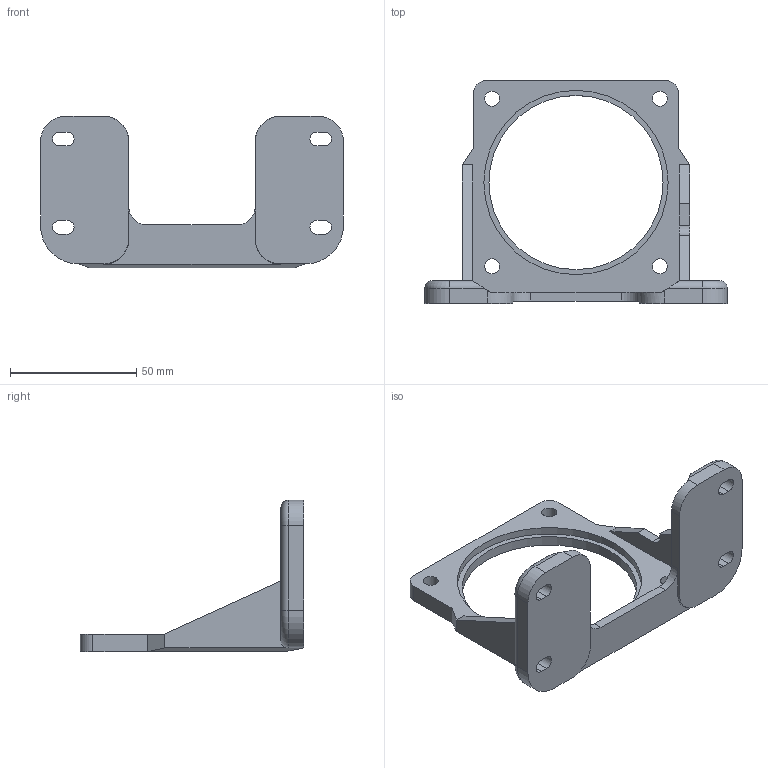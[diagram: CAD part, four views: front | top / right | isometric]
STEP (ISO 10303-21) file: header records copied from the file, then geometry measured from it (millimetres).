
FILE_DESCRIPTION((''),'2;1');
FILE_NAME('C:\Documents and Settings\Administrator\바탕 화면\SPL-8B.stp','2014-06-20T10:34:39',('kdhkdh'),(''),'Autodesk Inventor 2011','Autodesk Inventor 2011','');
FILE_SCHEMA(('AUTOMOTIVE_DESIGN { 1 0 10303 214 1 1 1 1 }'));
Length unit declared in the file: millimetre
Products named in the file (1): SPL-8B
Bounding box: 120 x 88.5 x 60 mm (x, y, z)
Volume: 55549.4 mm3; surface area: 24049.7 mm2
Topology: 1 solids, 1 shells, 82 faces, 217 edges, 138 vertices
Faces by surface type: plane 43, cylinder 31, cone 4, torus 4
Full cylindrical faces by diameter (mm): 6 x4, 69 x1, 73 x1
Entity records: 2547 total; most frequent: DIRECTION 447, CARTESIAN_POINT 428, ORIENTED_EDGE 414, EDGE_CURVE 207, AXIS2_PLACEMENT_3D 157, VERTEX_POINT 138, VECTOR 133, LINE 133
